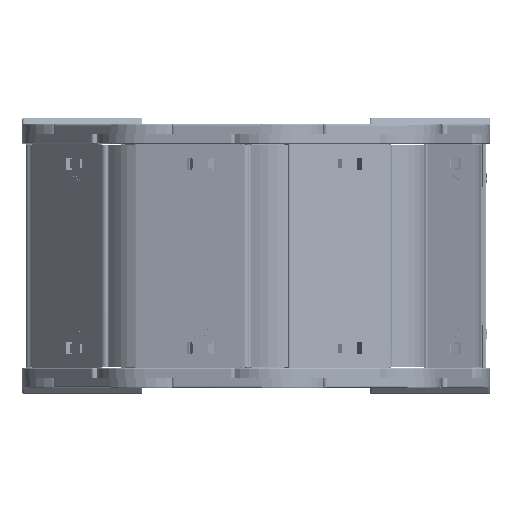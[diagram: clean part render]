
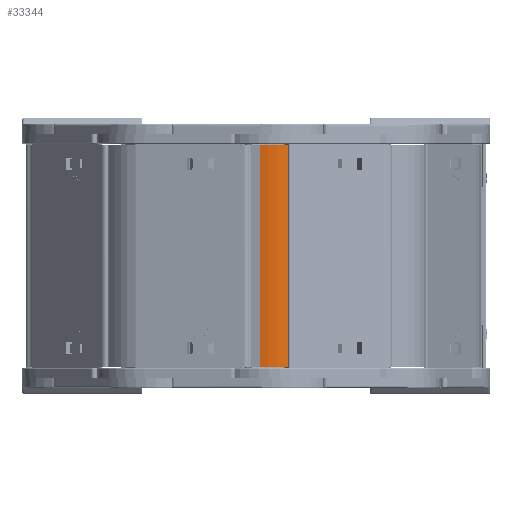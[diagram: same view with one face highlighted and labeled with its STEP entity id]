
A CAD part, left-side view. The second image highlights one B-rep face of the part: STEP entity #33344.
In plain terms, the highlighted cylindrical face has radius 29.2 mm (diameter 58.4 mm), a partial arc.
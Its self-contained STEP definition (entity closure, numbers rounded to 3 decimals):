
#328 = CARTESIAN_POINT ( 'NONE',  ( 43.645, 8.539, -66.3 ) ) ;
#3787 = CARTESIAN_POINT ( 'NONE',  ( 43.645, 8.539, 57.8 ) ) ;
#4851 = DIRECTION ( 'NONE',  ( 0., 0., 1. ) ) ;
#6382 = DIRECTION ( 'NONE',  ( 0., 0., 1. ) ) ;
#6479 = DIRECTION ( 'NONE',  ( 0., 0., -1. ) ) ;
#7938 = ORIENTED_EDGE ( 'NONE', *, *, #21179, .F. ) ;
#10431 = EDGE_CURVE ( 'NONE', #36013, #24933, #18783, .T. ) ;
#11258 = AXIS2_PLACEMENT_3D ( 'NONE', #22008, #51843, #26355 ) ;
#16285 = ORIENTED_EDGE ( 'NONE', *, *, #10431, .T. ) ;
#17016 = VECTOR ( 'NONE', #6382, 1000. ) ;
#18783 = LINE ( 'NONE', #27413, #51686 ) ;
#21179 = EDGE_CURVE ( 'NONE', #32726, #38152, #51278, .T. ) ;
#21290 = FACE_OUTER_BOUND ( 'NONE', #21368, .T. ) ;
#21368 = EDGE_LOOP ( 'NONE', ( #16285, #40195, #7938, #32242 ) ) ;
#22008 = CARTESIAN_POINT ( 'NONE',  ( 25.609, 31.503, -103.312 ) ) ;
#23274 = EDGE_CURVE ( 'NONE', #24933, #38152, #44867, .T. ) ;
#24933 = VERTEX_POINT ( 'NONE', #3787 ) ;
#26355 = DIRECTION ( 'NONE',  ( 1., 0., 0. ) ) ;
#27413 = CARTESIAN_POINT ( 'NONE',  ( 43.645, 8.539, -103.312 ) ) ;
#28027 = AXIS2_PLACEMENT_3D ( 'NONE', #30593, #4851, #34901 ) ;
#30593 = CARTESIAN_POINT ( 'NONE',  ( 25.609, 31.503, -66.3 ) ) ;
#32117 = CARTESIAN_POINT ( 'NONE',  ( 25.609, 2.303, -103.312 ) ) ;
#32214 = CARTESIAN_POINT ( 'NONE',  ( 25.609, 31.503, 57.8 ) ) ;
#32242 = ORIENTED_EDGE ( 'NONE', *, *, #55503, .T. ) ;
#32726 = VERTEX_POINT ( 'NONE', #54744 ) ;
#33344 = ADVANCED_FACE ( 'NONE', ( #21290 ), #54205, .T. ) ;
#34901 = DIRECTION ( 'NONE',  ( 1., 0., 0. ) ) ;
#36013 = VERTEX_POINT ( 'NONE', #328 ) ;
#36518 = DIRECTION ( 'NONE',  ( 1., 0., 0. ) ) ;
#38152 = VERTEX_POINT ( 'NONE', #47400 ) ;
#40169 = DIRECTION ( 'NONE',  ( 0., 0., 1. ) ) ;
#40195 = ORIENTED_EDGE ( 'NONE', *, *, #23274, .T. ) ;
#44805 = AXIS2_PLACEMENT_3D ( 'NONE', #32214, #6479, #36518 ) ;
#44867 = CIRCLE ( 'NONE', #44805, 29.2 ) ;
#47400 = CARTESIAN_POINT ( 'NONE',  ( 25.609, 2.303, 57.8 ) ) ;
#50738 = CIRCLE ( 'NONE', #28027, 29.2 ) ;
#51278 = LINE ( 'NONE', #32117, #17016 ) ;
#51686 = VECTOR ( 'NONE', #40169, 1000. ) ;
#51843 = DIRECTION ( 'NONE',  ( 0., 0., 1. ) ) ;
#54205 = CYLINDRICAL_SURFACE ( 'NONE', #11258, 29.2 ) ;
#54744 = CARTESIAN_POINT ( 'NONE',  ( 25.609, 2.303, -66.3 ) ) ;
#55503 = EDGE_CURVE ( 'NONE', #32726, #36013, #50738, .T. ) ;
